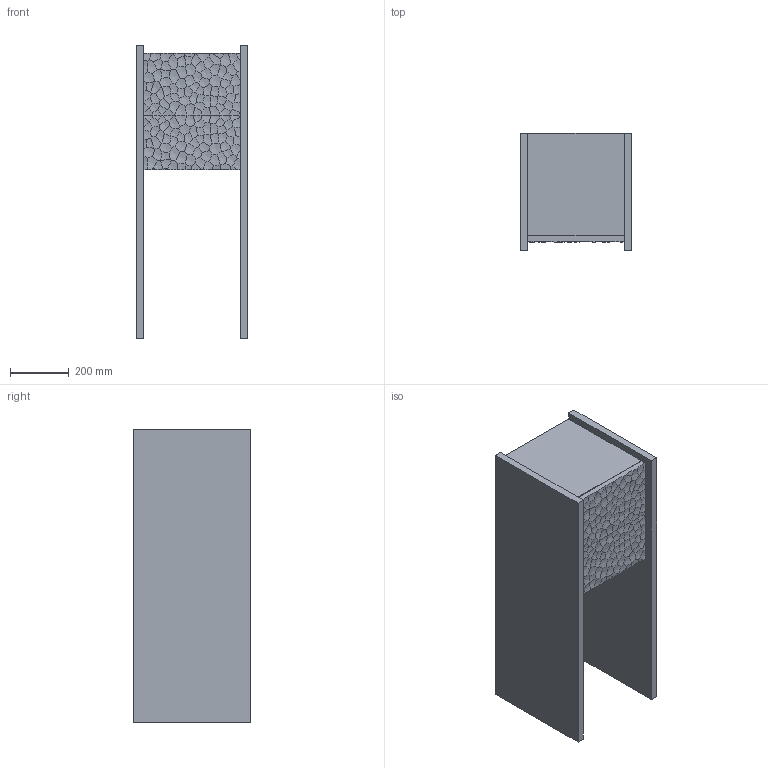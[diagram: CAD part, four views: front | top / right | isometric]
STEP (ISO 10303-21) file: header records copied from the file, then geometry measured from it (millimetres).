
FILE_DESCRIPTION(/* description */ (''),/* implementation_level */ '2;1');
FILE_NAME(/* name */ 'Scarni Pedestal Cabinet_Ferm Living_3D',/* time_stamp */ '2026-02-04T14:04:00+01:00',/* author */ (''),/* organization */ (''),/* preprocessor_version */ 'ST-DEVELOPER v19.2',/* originating_system */ 'Rhino 8.27',/* authorisation */ '');
FILE_SCHEMA (('CONFIG_CONTROL_DESIGN'));
Length unit declared in the file: millimetre
Products named in the file (1): Document
Bounding box: 380 x 400 x 1000 mm (x, y, z)
Volume: 28414147.6 mm3; surface area: 2805162.3 mm2
Topology: 6 solids, 6 shells, 214 faces, 595 edges, 393 vertices
Faces by surface type: bspline 178, plane 36
Entity records: 11264 total; most frequent: CARTESIAN_POINT 7678, ORIENTED_EDGE 1190, EDGE_CURVE 595, B_SPLINE_CURVE_WITH_KNOTS 556, VERTEX_POINT 393, ADVANCED_FACE 214, FACE_OUTER_BOUND 214, EDGE_LOOP 214
